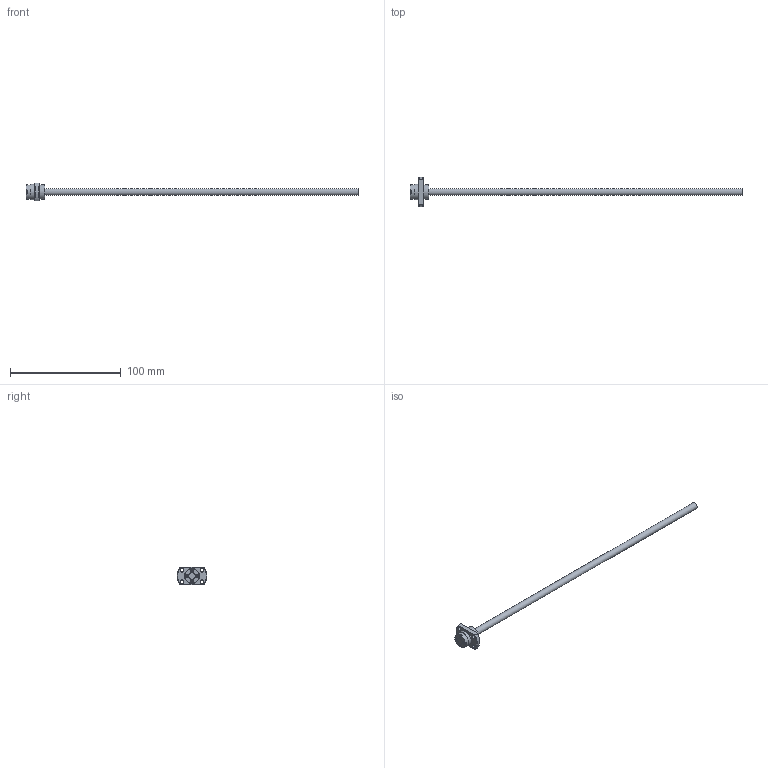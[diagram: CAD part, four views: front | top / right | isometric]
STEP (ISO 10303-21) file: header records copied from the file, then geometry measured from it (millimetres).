
FILE_DESCRIPTION( ( 'STEP AP203' ), '1' );
FILE_NAME( 'e:/temp/worker_93/temp/exporttempdir_3516_765_EsOKj/format_0/SR0606-300R300C10(0).stp', '2021-10-19T03:54:30', ( 'License CC BY-ND 4.0' ), ( 'CADENAS' ), ' ', 'PARTsolutions', ' ' );
FILE_SCHEMA( ( 'CONFIG_CONTROL_DESIGN' ) );
Length unit declared in the file: millimetre
Products named in the file (3): SR0606-300R300C10(0); _SR0606-300R300C10C10(0)_shaft; _SR0606-300R300C10C10_nut
Assembly tree (2 placements, depth 2):
  SR0606-300R300C10(0)
    _SR0606-300R300C10C10(0)_shaft
    _SR0606-300R300C10C10_nut
Bounding box: 300 x 27 x 16 mm (x, y, z)
Volume: 11330.7 mm3; surface area: 7820.7 mm2
Topology: 2 solids, 2 shells, 84 faces, 200 edges, 131 vertices
Faces by surface type: plane 55, cylinder 21, cone 8
Full cylindrical faces by diameter (mm): 2.15 x1, 2.5 x1, 3.4 x4, 6 x2, 13.4 x3, 14 x2
Entity records: 2458 total; most frequent: CARTESIAN_POINT 421, DIRECTION 404, ORIENTED_EDGE 362, EDGE_CURVE 181, AXIS2_PLACEMENT_3D 144, VERTEX_POINT 129, EDGE_LOOP 122, LINE 116
